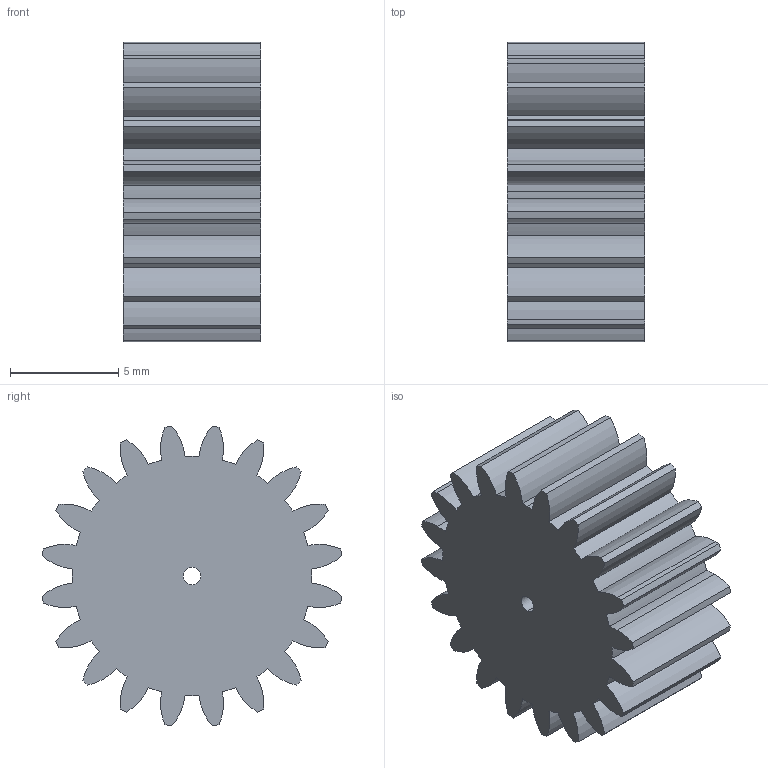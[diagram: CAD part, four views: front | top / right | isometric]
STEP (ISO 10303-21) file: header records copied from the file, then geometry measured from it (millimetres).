
FILE_DESCRIPTION (( 'STEP AP214' ), '1' );
FILE_NAME ('Inch - Spur gear 40DP 20T 20PA 0.25FW ---S20N3.0H2.0L0.03125N.STEP', '2025-10-11T19:37:34', ( '' ), ( '' ), 'SwSTEP 2.0', 'SolidWorks 2024', '' );
FILE_SCHEMA (( 'AUTOMOTIVE_DESIGN' ));
Length unit declared in the file: inch
Products named in the file (1): Inch - Spur gear 40DP 20T 20PA 0.25FW ---S20N3.0H2.0L0.03125N
Bounding box: 6.35 x 13.84 x 13.84 mm (x, y, z)
Volume: 769.8 mm3; surface area: 773.2 mm2
Topology: 1 solids, 1 shells, 89 faces, 261 edges, 174 vertices
Faces by surface type: cylinder 87, plane 2
Entity records: 3100 total; most frequent: DIRECTION 615, CARTESIAN_POINT 525, ORIENTED_EDGE 522, AXIS2_PLACEMENT_3D 264, EDGE_CURVE 261, CIRCLE 174, VERTEX_POINT 174, EDGE_LOOP 91
